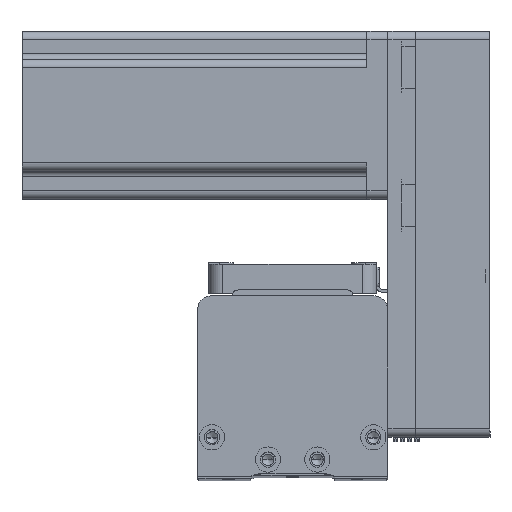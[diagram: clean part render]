
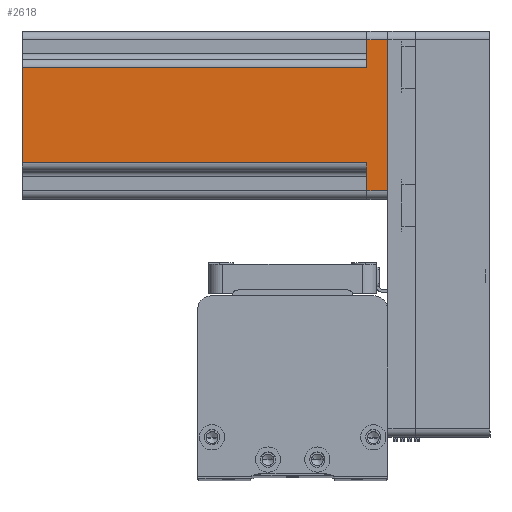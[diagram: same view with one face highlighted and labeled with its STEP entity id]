
A CAD part, top view. The second image highlights one B-rep face of the part: STEP entity #2618.
In plain terms, the highlighted planar face has unit normal (0, 0, 1) as drawn and (0, -1, 0) by its records, which use the part's own axes.
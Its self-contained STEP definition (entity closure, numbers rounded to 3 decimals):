
#1712 = CARTESIAN_POINT ( 'NONE',  ( -27., -30., 130.7 ) ) ;
#2058 = DIRECTION ( 'NONE',  ( 1., 0., 0. ) ) ;
#2618 = ADVANCED_FACE ( 'NONE', ( #25849 ), #42943, .F. ) ;
#3243 = VECTOR ( 'NONE', #8592, 1000. ) ;
#3364 = VECTOR ( 'NONE', #10002, 1000. ) ;
#3397 = CARTESIAN_POINT ( 'NONE',  ( 30., -30., 0. ) ) ;
#3738 = CARTESIAN_POINT ( 'NONE',  ( 27., -30., 0. ) ) ;
#4391 = EDGE_CURVE ( 'NONE', #16258, #33467, #24016, .T. ) ;
#4635 = CARTESIAN_POINT ( 'NONE',  ( -17., -30., 130.7 ) ) ;
#5256 = EDGE_CURVE ( 'NONE', #29123, #16258, #24955, .T. ) ;
#5488 = CARTESIAN_POINT ( 'NONE',  ( 30., -30., 130.7 ) ) ;
#6146 = EDGE_CURVE ( 'NONE', #31083, #14168, #16527, .T. ) ;
#7658 = VERTEX_POINT ( 'NONE', #19139 ) ;
#7921 = ORIENTED_EDGE ( 'NONE', *, *, #30011, .T. ) ;
#8592 = DIRECTION ( 'NONE',  ( 0., 0., -1. ) ) ;
#9739 = CARTESIAN_POINT ( 'NONE',  ( -27., -30., 7.5 ) ) ;
#10002 = DIRECTION ( 'NONE',  ( 1., 0., 0. ) ) ;
#11415 = ORIENTED_EDGE ( 'NONE', *, *, #6146, .F. ) ;
#11559 = DIRECTION ( 'NONE',  ( 0., 0., -1. ) ) ;
#12403 = CARTESIAN_POINT ( 'NONE',  ( 30., -30., 130.7 ) ) ;
#12417 = ORIENTED_EDGE ( 'NONE', *, *, #18979, .T. ) ;
#12765 = ORIENTED_EDGE ( 'NONE', *, *, #4391, .T. ) ;
#12989 = VECTOR ( 'NONE', #43354, 1000. ) ;
#14168 = VERTEX_POINT ( 'NONE', #28080 ) ;
#15072 = LINE ( 'NONE', #39833, #12989 ) ;
#15080 = DIRECTION ( 'NONE',  ( 1., 0., 0. ) ) ;
#15808 = DIRECTION ( 'NONE',  ( -1., 0., 0. ) ) ;
#16258 = VERTEX_POINT ( 'NONE', #21484 ) ;
#16527 = LINE ( 'NONE', #35582, #25595 ) ;
#16812 = DIRECTION ( 'NONE',  ( -1., 0., 0. ) ) ;
#18000 = EDGE_CURVE ( 'NONE', #34033, #14168, #35818, .T. ) ;
#18979 = EDGE_CURVE ( 'NONE', #31083, #39016, #39617, .T. ) ;
#19139 = CARTESIAN_POINT ( 'NONE',  ( 17., -30., 130.7 ) ) ;
#19272 = LINE ( 'NONE', #5488, #36372 ) ;
#21484 = CARTESIAN_POINT ( 'NONE',  ( 27., -30., 7.5 ) ) ;
#22071 = ORIENTED_EDGE ( 'NONE', *, *, #30430, .T. ) ;
#22629 = EDGE_CURVE ( 'NONE', #34033, #7658, #19272, .T. ) ;
#24016 = LINE ( 'NONE', #40686, #33110 ) ;
#24955 = LINE ( 'NONE', #29679, #34062 ) ;
#25595 = VECTOR ( 'NONE', #15080, 1000. ) ;
#25849 = FACE_OUTER_BOUND ( 'NONE', #26842, .T. ) ;
#26790 = CARTESIAN_POINT ( 'NONE',  ( 17., -30., 7.5 ) ) ;
#26842 = EDGE_LOOP ( 'NONE', ( #36986, #44131, #11415, #12417, #7921, #41766, #12765, #22071 ) ) ;
#28080 = CARTESIAN_POINT ( 'NONE',  ( -17., -30., 7.5 ) ) ;
#29123 = VERTEX_POINT ( 'NONE', #3738 ) ;
#29589 = LINE ( 'NONE', #3397, #3364 ) ;
#29679 = CARTESIAN_POINT ( 'NONE',  ( 27., -30., 130.7 ) ) ;
#30011 = EDGE_CURVE ( 'NONE', #39016, #29123, #29589, .T. ) ;
#30430 = EDGE_CURVE ( 'NONE', #33467, #7658, #15072, .T. ) ;
#31083 = VERTEX_POINT ( 'NONE', #9739 ) ;
#32949 = DIRECTION ( 'NONE',  ( 0., 0., 1. ) ) ;
#33110 = VECTOR ( 'NONE', #16812, 1000. ) ;
#33467 = VERTEX_POINT ( 'NONE', #26790 ) ;
#33571 = CARTESIAN_POINT ( 'NONE',  ( -27., -30., 0. ) ) ;
#33905 = CARTESIAN_POINT ( 'NONE',  ( -17., -30., 130.7 ) ) ;
#34033 = VERTEX_POINT ( 'NONE', #33905 ) ;
#34062 = VECTOR ( 'NONE', #32949, 1000. ) ;
#35582 = CARTESIAN_POINT ( 'NONE',  ( -20., -30., 7.5 ) ) ;
#35818 = LINE ( 'NONE', #4635, #36899 ) ;
#36316 = DIRECTION ( 'NONE',  ( 0., 1., 0. ) ) ;
#36372 = VECTOR ( 'NONE', #2058, 1000. ) ;
#36899 = VECTOR ( 'NONE', #11559, 1000. ) ;
#36986 = ORIENTED_EDGE ( 'NONE', *, *, #22629, .F. ) ;
#39016 = VERTEX_POINT ( 'NONE', #33571 ) ;
#39617 = LINE ( 'NONE', #1712, #3243 ) ;
#39712 = AXIS2_PLACEMENT_3D ( 'NONE', #12403, #36316, #15808 ) ;
#39833 = CARTESIAN_POINT ( 'NONE',  ( 17., -30., 130.7 ) ) ;
#40686 = CARTESIAN_POINT ( 'NONE',  ( 20., -30., 7.5 ) ) ;
#41766 = ORIENTED_EDGE ( 'NONE', *, *, #5256, .T. ) ;
#42943 = PLANE ( 'NONE',  #39712 ) ;
#43354 = DIRECTION ( 'NONE',  ( 0., 0., 1. ) ) ;
#44131 = ORIENTED_EDGE ( 'NONE', *, *, #18000, .T. ) ;
